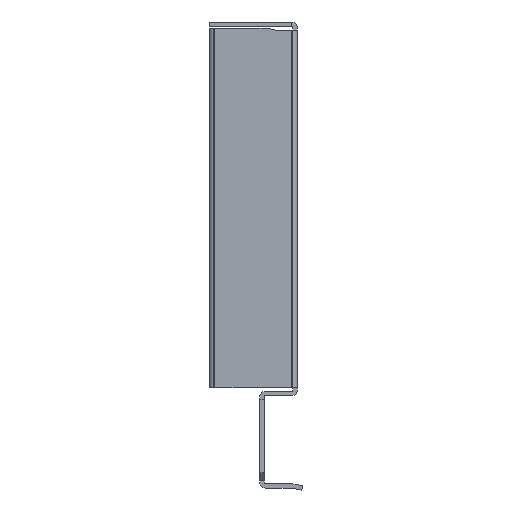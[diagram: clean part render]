
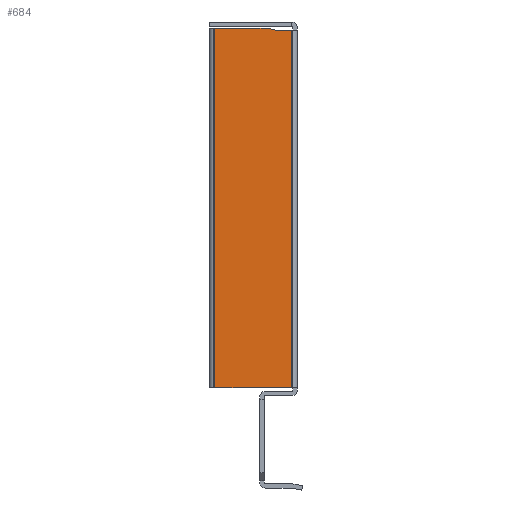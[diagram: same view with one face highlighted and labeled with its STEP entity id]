
A CAD part, left-side view. The second image highlights one B-rep face of the part: STEP entity #684.
In plain terms, the highlighted planar face has unit normal (-1, 0, 0).
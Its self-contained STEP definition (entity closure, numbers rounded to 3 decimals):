
#6 = DIRECTION ( 'NONE',  ( 0., -0.966, -0.259 ) ) ;
#7 = CARTESIAN_POINT ( 'NONE',  ( -305., 0.612, 83.2 ) ) ;
#204 = VERTEX_POINT ( 'NONE', #432 ) ;
#214 = DIRECTION ( 'NONE',  ( 0., -1., 0. ) ) ;
#215 = DIRECTION ( 'NONE',  ( -1., 0., 0. ) ) ;
#216 = CARTESIAN_POINT ( 'NONE',  ( -305., -5., 101.385 ) ) ;
#217 = PLANE ( 'NONE',  #1210 ) ;
#339 = CARTESIAN_POINT ( 'NONE',  ( -305., -0.507, 82.9 ) ) ;
#367 = CARTESIAN_POINT ( 'NONE',  ( -305., 9., 17.5 ) ) ;
#373 = CARTESIAN_POINT ( 'NONE',  ( -305., -5., 17.5 ) ) ;
#376 = CARTESIAN_POINT ( 'NONE',  ( -305., -2., 82.5 ) ) ;
#394 = CARTESIAN_POINT ( 'NONE',  ( -305., -5., 82.5 ) ) ;
#427 = DIRECTION ( 'NONE',  ( 0., 1., 0. ) ) ;
#432 = CARTESIAN_POINT ( 'NONE',  ( -305., 9., 82.9 ) ) ;
#450 = CARTESIAN_POINT ( 'NONE',  ( -305., -5., 82.9 ) ) ;
#503 = VERTEX_POINT ( 'NONE', #394 ) ;
#521 = VERTEX_POINT ( 'NONE', #376 ) ;
#524 = VERTEX_POINT ( 'NONE', #373 ) ;
#530 = VERTEX_POINT ( 'NONE', #367 ) ;
#558 = VERTEX_POINT ( 'NONE', #339 ) ;
#599 = CARTESIAN_POINT ( 'NONE',  ( -305., 9., 101.385 ) ) ;
#600 = DIRECTION ( 'NONE',  ( 0., 0., -1. ) ) ;
#601 = CARTESIAN_POINT ( 'NONE',  ( -305., -2., 82.5 ) ) ;
#602 = DIRECTION ( 'NONE',  ( 0., -1., 0. ) ) ;
#622 = CARTESIAN_POINT ( 'NONE',  ( -305., -5., 101.385 ) ) ;
#623 = DIRECTION ( 'NONE',  ( 0., 0., -1. ) ) ;
#684 = ADVANCED_FACE ( 'NONE', ( #2040 ), #217, .T. ) ;
#785 = DIRECTION ( 'NONE',  ( 0., 1., 0. ) ) ;
#786 = CARTESIAN_POINT ( 'NONE',  ( -305., -5., 17.5 ) ) ;
#997 = EDGE_LOOP ( 'NONE', ( #1873, #1874, #1875, #1876, #1877, #1878 ) ) ;
#1210 = AXIS2_PLACEMENT_3D ( 'NONE', #216, #215, #214 ) ;
#1516 = EDGE_CURVE ( 'NONE', #524, #530, #2376, .T. ) ;
#1570 = EDGE_CURVE ( 'NONE', #558, #204, #2391, .T. ) ;
#1680 = EDGE_CURVE ( 'NONE', #558, #521, #2400, .T. ) ;
#1684 = EDGE_CURVE ( 'NONE', #204, #530, #2407, .T. ) ;
#1685 = EDGE_CURVE ( 'NONE', #521, #503, #2410, .T. ) ;
#1873 = ORIENTED_EDGE ( 'NONE', *, *, #1685, .F. ) ;
#1874 = ORIENTED_EDGE ( 'NONE', *, *, #1680, .F. ) ;
#1875 = ORIENTED_EDGE ( 'NONE', *, *, #1570, .T. ) ;
#1876 = ORIENTED_EDGE ( 'NONE', *, *, #1684, .T. ) ;
#1877 = ORIENTED_EDGE ( 'NONE', *, *, #1516, .F. ) ;
#1878 = ORIENTED_EDGE ( 'NONE', *, *, #2468, .F. ) ;
#2040 = FACE_OUTER_BOUND ( 'NONE', #997, .T. ) ;
#2376 = LINE ( 'NONE', #786, #2378 ) ;
#2378 = VECTOR ( 'NONE', #785, 1000. ) ;
#2391 = LINE ( 'NONE', #450, #2393 ) ;
#2393 = VECTOR ( 'NONE', #427, 1000. ) ;
#2400 = LINE ( 'NONE', #7, #2402 ) ;
#2402 = VECTOR ( 'NONE', #6, 1000. ) ;
#2407 = LINE ( 'NONE', #599, #2409 ) ;
#2409 = VECTOR ( 'NONE', #600, 1000. ) ;
#2410 = LINE ( 'NONE', #601, #2411 ) ;
#2411 = VECTOR ( 'NONE', #602, 1000. ) ;
#2429 = LINE ( 'NONE', #622, #2430 ) ;
#2430 = VECTOR ( 'NONE', #623, 1000. ) ;
#2468 = EDGE_CURVE ( 'NONE', #503, #524, #2429, .T. ) ;
